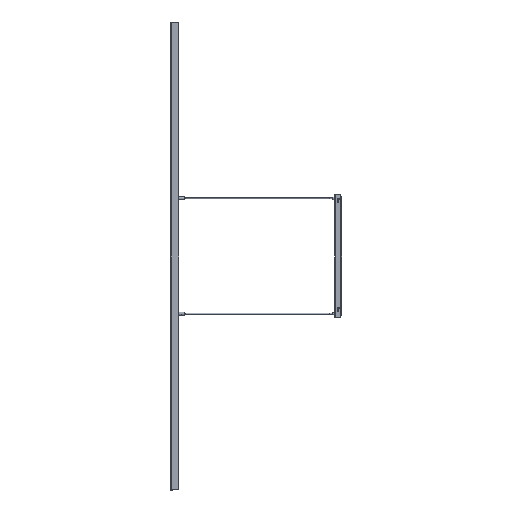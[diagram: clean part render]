
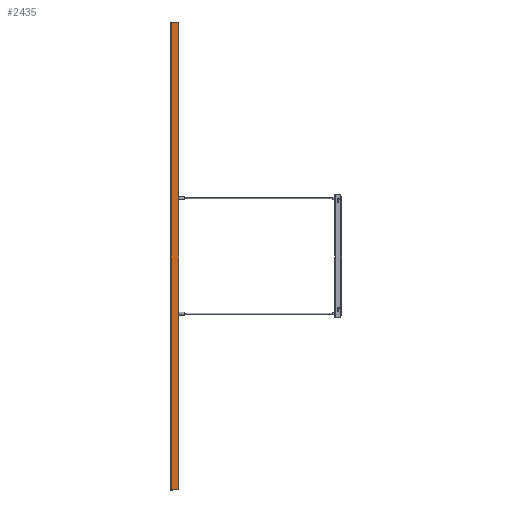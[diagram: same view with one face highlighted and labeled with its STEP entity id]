
A CAD part, left-side view. The second image highlights one B-rep face of the part: STEP entity #2435.
In plain terms, the highlighted planar face has unit normal (-1, 0, 0) as drawn and (0, 0, -1) by its records, which use the part's own axes.
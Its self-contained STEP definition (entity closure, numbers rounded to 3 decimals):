
#628 = ORIENTED_EDGE ( 'NONE', *, *, #3970, .T. ) ;
#1041 = VECTOR ( 'NONE', #3049, 1000. ) ;
#1236 = CARTESIAN_POINT ( 'NONE',  ( 748., 0.5, -12.75 ) ) ;
#1443 = CARTESIAN_POINT ( 'NONE',  ( -748., 24.7, -12.75 ) ) ;
#2015 = LINE ( 'NONE', #12003, #6769 ) ;
#2435 = ADVANCED_FACE ( 'NONE', ( #16264 ), #16027, .F. ) ;
#2680 = ORIENTED_EDGE ( 'NONE', *, *, #16270, .F. ) ;
#3049 = DIRECTION ( 'NONE',  ( -1., 0., 0. ) ) ;
#3209 = VERTEX_POINT ( 'NONE', #8449 ) ;
#3953 = DIRECTION ( 'NONE',  ( 0., 1., 0. ) ) ;
#3970 = EDGE_CURVE ( 'NONE', #7394, #13134, #2015, .T. ) ;
#4881 = DIRECTION ( 'NONE',  ( 0., 0., 1. ) ) ;
#5684 = EDGE_LOOP ( 'NONE', ( #628, #2680, #5898, #10386 ) ) ;
#5898 = ORIENTED_EDGE ( 'NONE', *, *, #11399, .F. ) ;
#6769 = VECTOR ( 'NONE', #15724, 1000. ) ;
#7394 = VERTEX_POINT ( 'NONE', #11478 ) ;
#7670 = VECTOR ( 'NONE', #3953, 1000. ) ;
#8449 = CARTESIAN_POINT ( 'NONE',  ( 748., 24.7, -12.75 ) ) ;
#8933 = CARTESIAN_POINT ( 'NONE',  ( 748., 0.5, -12.75 ) ) ;
#9253 = LINE ( 'NONE', #15608, #1041 ) ;
#10146 = LINE ( 'NONE', #13788, #7670 ) ;
#10162 = DIRECTION ( 'NONE',  ( -1., 0., 0. ) ) ;
#10386 = ORIENTED_EDGE ( 'NONE', *, *, #10965, .T. ) ;
#10411 = AXIS2_PLACEMENT_3D ( 'NONE', #1236, #4881, #14942 ) ;
#10785 = VERTEX_POINT ( 'NONE', #14879 ) ;
#10965 = EDGE_CURVE ( 'NONE', #10785, #7394, #12721, .T. ) ;
#11399 = EDGE_CURVE ( 'NONE', #10785, #3209, #10146, .T. ) ;
#11478 = CARTESIAN_POINT ( 'NONE',  ( -748., 0.5, -12.75 ) ) ;
#12003 = CARTESIAN_POINT ( 'NONE',  ( -748., 0.5, -12.75 ) ) ;
#12721 = LINE ( 'NONE', #8933, #16075 ) ;
#13134 = VERTEX_POINT ( 'NONE', #1443 ) ;
#13788 = CARTESIAN_POINT ( 'NONE',  ( 748., 0.5, -12.75 ) ) ;
#14879 = CARTESIAN_POINT ( 'NONE',  ( 748., 0.5, -12.75 ) ) ;
#14942 = DIRECTION ( 'NONE',  ( 0., -1., 0. ) ) ;
#15608 = CARTESIAN_POINT ( 'NONE',  ( 748., 24.7, -12.75 ) ) ;
#15724 = DIRECTION ( 'NONE',  ( 0., 1., 0. ) ) ;
#16027 = PLANE ( 'NONE',  #10411 ) ;
#16075 = VECTOR ( 'NONE', #10162, 1000. ) ;
#16264 = FACE_OUTER_BOUND ( 'NONE', #5684, .T. ) ;
#16270 = EDGE_CURVE ( 'NONE', #3209, #13134, #9253, .T. ) ;
